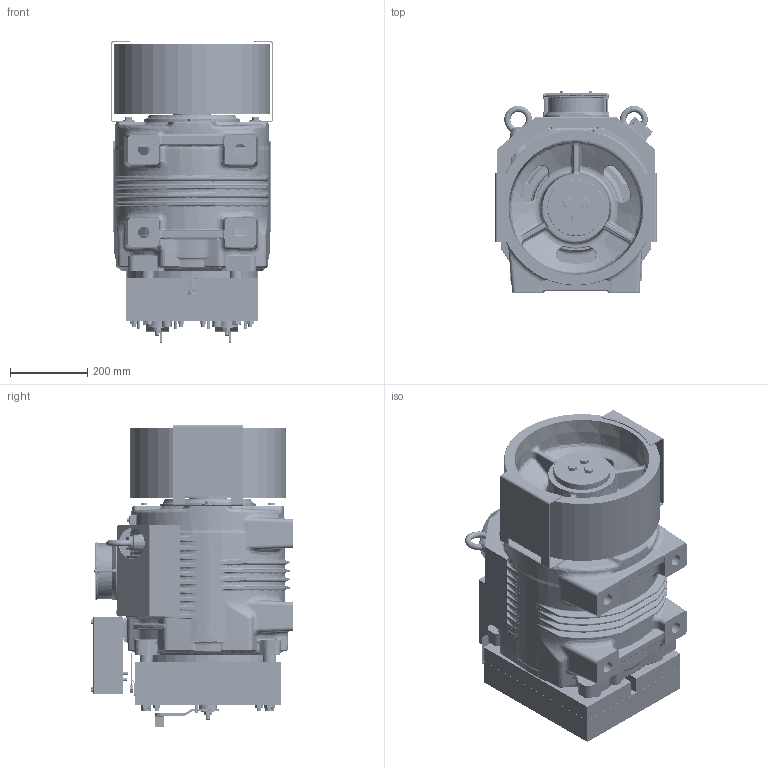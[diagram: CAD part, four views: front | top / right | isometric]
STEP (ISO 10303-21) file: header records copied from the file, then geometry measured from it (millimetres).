
FILE_DESCRIPTION((''),'2;1');
FILE_NAME('00363634_ASM','2020-06-16T',('furlanis'),('Sicor spa'),'CREO PARAMETRIC BY PTC INC, 2017170','CREO PARAMETRIC BY PTC INC, 2017170','');
FILE_SCHEMA(('CONFIG_CONTROL_DESIGN'));
Products named in the file (21): SG62_; _400_182; _400; 00261097; M4_FTT_L; M4_FTT_C; M3_FTT_C; 00261096_ASM; 00008906; 00024268; 00024286_ASM; 00024307; 00259719_M4X60; 00022368; 2080010002; VITI_TC_M4X25_VIT0066; VITI_TC_M3X16_VIT0064; TEM6X12_VIR0184; 00000263; 00268202_ASM; 00363634_ASM
Assembly tree (32 placements, depth 4):
  00363634_ASM
    SG62_
    _400_182
    _400  x2
    00268202_ASM
      00261096_ASM
        00261097
        M4_FTT_L  x2
        M4_FTT_C  x4
        M3_FTT_C  x2
      00024286_ASM
        00008906
        00024268
      00024307
      00259719_M4X60  x2
      00022368
      2080010002
      VITI_TC_M4X25_VIT0066  x2
      VITI_TC_M3X16_VIT0064  x2
      TEM6X12_VIR0184  x4
      00000263
Bounding box: 419 x 521.9 x 783.64 mm (x, y, z)
Volume: 11308048 mm3; surface area: 5219161.5 mm2
Topology: 28 solids, 207 shells, 5078 faces, 14039 edges, 8926 vertices
Faces by surface type: plane 1379, bspline 1223, cylinder 1214, torus 632, cone 566, sphere 64
Entity records: 260299 total; most frequent: CARTESIAN_POINT 151099, ORIENTED_EDGE 24022, DIRECTION 18997, EDGE_CURVE 13445, VERTEX_POINT 8603, AXIS2_PLACEMENT_3D 7526, B_SPLINE_CURVE_WITH_KNOTS 5669, EDGE_LOOP 5050
